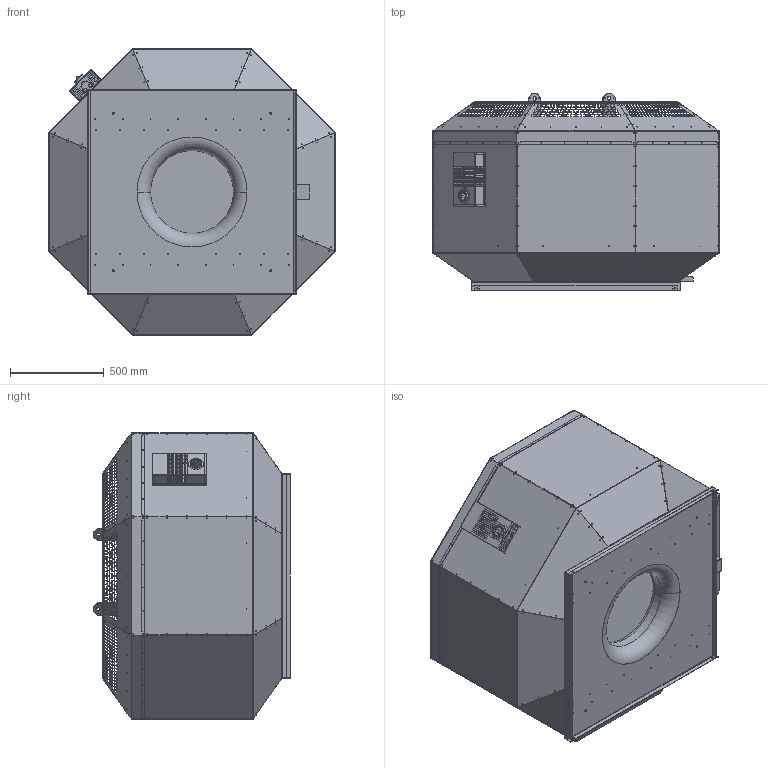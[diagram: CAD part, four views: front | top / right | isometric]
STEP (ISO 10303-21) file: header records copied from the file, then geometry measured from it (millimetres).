
FILE_DESCRIPTION (( 'STEP AP203' ), '1' );
FILE_NAME ('145045-00_DVNI710D630_step.step', '2019-02-05T12:01:42', ( '' ), ( '' ), 'SwSTEP 2.0', 'SolidWorks 2017', '' );
FILE_SCHEMA (( 'CONFIG_CONTROL_DESIGN' ));
Length unit declared in the file: millimetre
Products named in the file (1): 145045-00_DVNI710D630_step
Bounding box: 1525 x 1047.5 x 1525 mm (x, y, z)
Surface area: 15286763.9 mm2 (no closed solid volume)
Topology: 0 solids, 70 shells, 3241 faces, 25328 edges, 20966 vertices
Faces by surface type: plane 2831, cylinder 396, torus 7, bspline 7
Entity records: 243126 total; most frequent: CARTESIAN_POINT 53573, DIRECTION 34311, ORIENTED_EDGE 31755, EDGE_CURVE 25328, LINE 22419, VECTOR 22419, VERTEX_POINT 20966, EDGE_LOOP 8434
